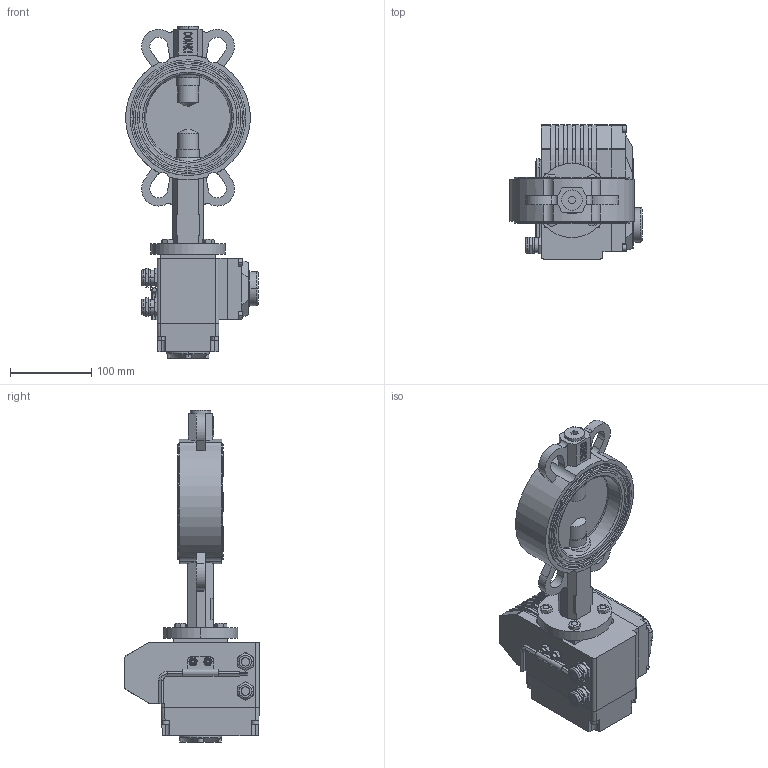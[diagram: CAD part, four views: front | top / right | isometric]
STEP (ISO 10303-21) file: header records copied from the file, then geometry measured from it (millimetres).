
FILE_DESCRIPTION((''),'2;1');
FILE_NAME('VBS_EAR_T_ASM','2025-02-22T',('AMD'),(''),'PRO/ENGINEER BY PARAMETRIC TECHNOLOGY CORPORATION, 2008020','PRO/ENGINEER BY PARAMETRIC TECHNOLOGY CORPORATION, 2008020','');
FILE_SCHEMA(('CONFIG_CONTROL_DESIGN'));
Length unit declared in the file: millimetre
Products named in the file (24): KORPUS; REZ; DISK; SHTIR_1; ZAGLUSHKA; O-RING; SHTIR_2; SHAIBA_RAZREZ; SHAIBA; KOLCO_26_GOST13943; VTULKA; MANZET_REZ; SB_ASM; B-7798-M8-25; DET_1; V-11738-M5; V-11738-M4; DET_2; KREPLENIE; KLUCH; DET_3; G-5915-M6; ELECTROPRIVOD_ASM; VBS_EAR_T_ASM
Assembly tree (43 placements, depth 3):
  VBS_EAR_T_ASM
    SB_ASM
      KORPUS
      REZ
      DISK
      SHTIR_1
      ZAGLUSHKA
      O-RING  x2
      SHTIR_2
      SHAIBA_RAZREZ
      SHAIBA  x2
      KOLCO_26_GOST13943
      VTULKA  x5
      MANZET_REZ
    B-7798-M8-25  x4
    ELECTROPRIVOD_ASM
      DET_1
      V-11738-M5  x8
      V-11738-M4  x4
      DET_2
      KREPLENIE
      KLUCH
      DET_3
      G-5915-M6  x2
Bounding box: 162.23 x 165 x 407.5 mm (x, y, z)
Volume: 2509236.9 mm3; surface area: 419202.1 mm2
Topology: 41 solids, 74 shells, 1609 faces, 4125 edges, 2701 vertices
Faces by surface type: plane 1047, cylinder 434, cone 90, torus 38
Entity records: 42161 total; most frequent: CARTESIAN_POINT 7859, DIRECTION 7172, ORIENTED_EDGE 6878, EDGE_CURVE 3479, VECTOR 2518, LINE 2518, AXIS2_PLACEMENT_3D 2327, VERTEX_POINT 2290
